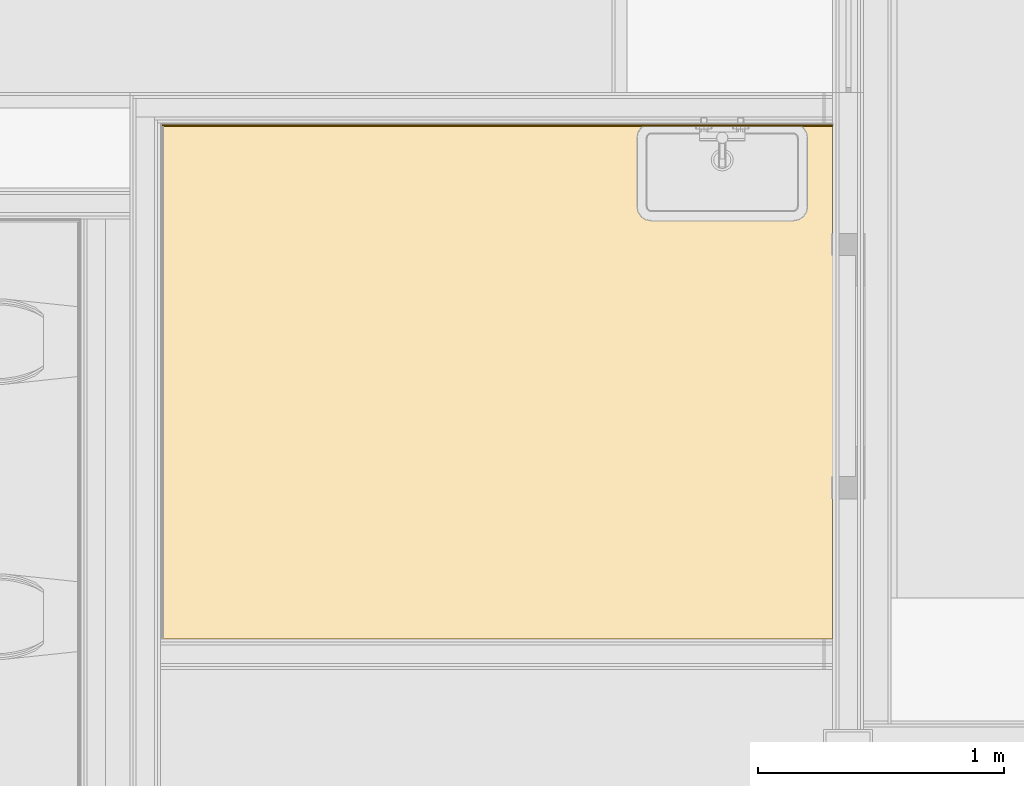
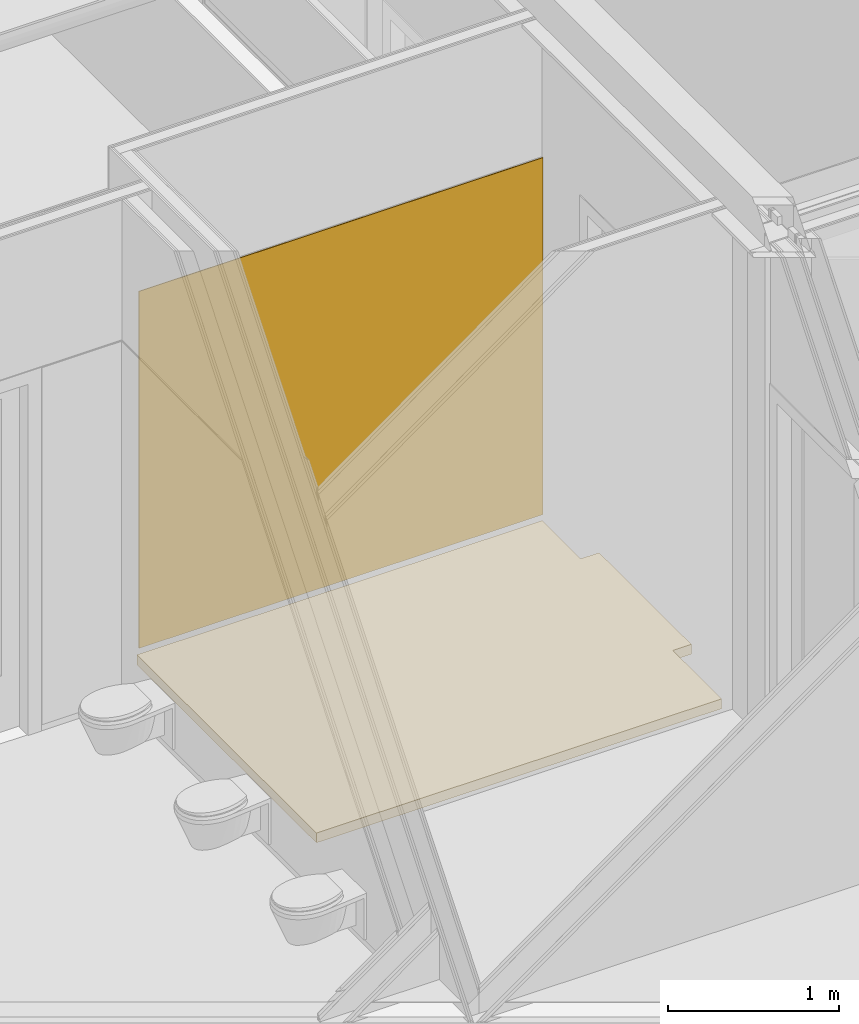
# One storey, part 115 of 165: 2 coverings, 2 elements without a shape of their own.
"""IFC2X3 building model written with IfcOpenShell, lengths in millimetres."""

from ifc_helpers import new_model, entity, si_unit, converted_unit, derived_unit, money_unit, direction, frame, origin_with_axes, place, context, subcontext, project, spatial, faceted_brep, material, type_object, element, aggregate, save


model = new_model("IFC2X3")

# Units and contexts
model_context = context("Model", 3, precision=0.01, world=origin_with_axes(), true_north=direction((0.0, 1.0)))
body_context = subcontext(model_context, "Body", "Model", "MODEL_VIEW")
ifc_project = project(units=[si_unit("LENGTHUNIT", "METRE", prefix="MILLI"), si_unit("AREAUNIT", "SQUARE_METRE"), si_unit("VOLUMEUNIT", "CUBIC_METRE"), converted_unit("PLANEANGLEUNIT", "DEGREE", entity("IfcPlaneAngleMeasure", 0.0174532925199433), si_unit("PLANEANGLEUNIT", "RADIAN"), dimensions=[0, 0, 0, 0, 0, 0, 0]), money_unit("EUR"), converted_unit("TIMEUNIT", "Year", entity("IfcTimeMeasure", 31556926.0), si_unit("TIMEUNIT", "SECOND"), dimensions=[0, 0, 1, 0, 0, 0, 0]), si_unit("MASSUNIT", "GRAM", prefix="KILO"), si_unit("THERMODYNAMICTEMPERATUREUNIT", "DEGREE_CELSIUS"), si_unit("LUMINOUSINTENSITYUNIT", "LUMEN"), si_unit("ENERGYUNIT", "JOULE", prefix="MEGA"), derived_unit("THERMALCONDUCTANCEUNIT", [(si_unit("POWERUNIT", "WATT"), 1), (si_unit("LENGTHUNIT", "METRE"), -1), (si_unit("THERMODYNAMICTEMPERATUREUNIT", "KELVIN"), -1)]), derived_unit("SPECIFICHEATCAPACITYUNIT", [(si_unit("ENERGYUNIT", "JOULE"), 1), (si_unit("MASSUNIT", "GRAM", prefix="KILO"), -1), (si_unit("THERMODYNAMICTEMPERATUREUNIT", "KELVIN"), -1)]), derived_unit("MASSDENSITYUNIT", [(si_unit("MASSUNIT", "GRAM", prefix="KILO"), 1), (si_unit("VOLUMEUNIT", "CUBIC_METRE"), -1)])], contexts=[model_context])

# Site, building, storey
site_placement = place(None, origin_with_axes())
site = spatial("IfcSite", under=ifc_project, at=site_placement, Name="Site", CompositionType="ELEMENT")
building_placement = place(site_placement, origin_with_axes())
building = spatial("IfcBuilding", under=site, at=building_placement, Name="Naam gebouw", CompositionType="ELEMENT")
storey_placement = place(building_placement, origin_with_axes())
storey = spatial("IfcBuildingStorey", under=building, at=storey_placement, Name="Begane grond", CompositionType="ELEMENT", Elevation=0.0)

# Slab, covering
slab_type = type_object("IfcSlabType", Name="43 Zwevende dekvloer 100", PredefinedType="NOTDEFINED")
slab_placement = place(storey_placement, frame((6049.999597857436, 13380.0002642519, 0.0), z_axis=(0.0, 0.0, 1.0), x_axis=(1.0, 0.0, 0.0)))
slab = element("IfcSlab", 1, at=slab_placement, inside=storey, type_object=slab_type, Name="_Vloer-x", PredefinedType="NOTDEFINED")
ifc_material_1 = material(Name="Cement - dekvloer")
covering_1_placement = place(slab_placement, origin_with_axes())
covering_1 = element("IfcCovering", 2, at=covering_1_placement, material=ifc_material_1, Name="Cement - dekvloer", PredefinedType="FLOORING", context=body_context, shape_type="Brep", body=[
    faceted_brep([(0.0, -2100.000173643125, -70.0), (0.0, -2100.000173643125, 0.0), (0.0, 0.0, 0.0), (0.0, 0.0, -70.0), (2737.500402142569, -2100.000173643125, -70.0), (2737.500402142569, -2100.000173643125, 0.0), (2737.500402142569, -1530.000226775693, 0.0), (2862.500402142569, -1530.000226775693, 0.0), (2862.500402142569, -450.0002267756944, 0.0), (2737.500402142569, -450.0002267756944, 0.0), (2737.500402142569, 0.0, 0.0), (2737.500402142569, 0.0, -70.0), (2737.500402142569, -450.0002267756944, -70.0), (2862.500402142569, -450.0002267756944, -70.0), (2862.500402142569, -1530.000226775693, -70.0), (2737.500402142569, -1530.000226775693, -70.0)], [[[0, 1, 2, 3]], [[4, 5, 1, 0]], [[2, 1, 5, 6, 7, 8, 9, 10]], [[3, 2, 10, 11]], [[3, 11, 12, 13, 14, 15, 4, 0]], [[15, 6, 5, 4]], [[14, 7, 6, 15]], [[13, 8, 7, 14]], [[12, 9, 8, 13]], [[11, 10, 9, 12]]]),
])
aggregate(slab, [covering_1])

# Proxy, covering
building_element_proxy_type = type_object("IfcBuildingElementProxyType", Name="42 Tegelwerk 2600+ 12 x 2600", PredefinedType="NOTDEFINED")
proxy_placement = place(storey_placement, frame((8787.500000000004, 13360.00004210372, 0.0), z_axis=(0.0, 0.0, 1.0), x_axis=(-0.9999999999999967, 8.261900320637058e-08, 0.0)))
proxy = element("IfcBuildingElementProxy", 3, at=proxy_placement, inside=storey, type_object=building_element_proxy_type, Name="_Wand-x")
ifc_material_2 = material(Name="Tegels - Wand")
covering_2_placement = place(proxy_placement, origin_with_axes())
covering_2 = element("IfcCovering", 4, at=covering_2_placement, material=ifc_material_2, Name="Tegels - Wand", PredefinedType="NOTDEFINED", context=body_context, shape_type="Brep", body=[
    faceted_brep([(2730.500410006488, -12.99977440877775, 50.00000000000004), (2730.500410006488, -12.99977440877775, 2600.0), (1.07404751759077e-06, -12.9999999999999, 2600.0), (1.07404751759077e-06, -12.9999999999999, 50.00000000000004), (2730.500409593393, -7.999774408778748, 2600.0), (2730.500409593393, -7.999774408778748, 50.00000000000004), (6.609521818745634e-07, -7.999999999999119, 2600.0), (6.609521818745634e-07, -7.999999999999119, 50.00000000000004)], [[[0, 1, 2, 3]], [[4, 1, 0, 5]], [[1, 4, 6, 2]], [[6, 7, 3, 2]], [[5, 0, 3, 7]], [[4, 5, 7, 6]]]),
])
aggregate(proxy, [covering_2])

save(model, "model.ifc")
